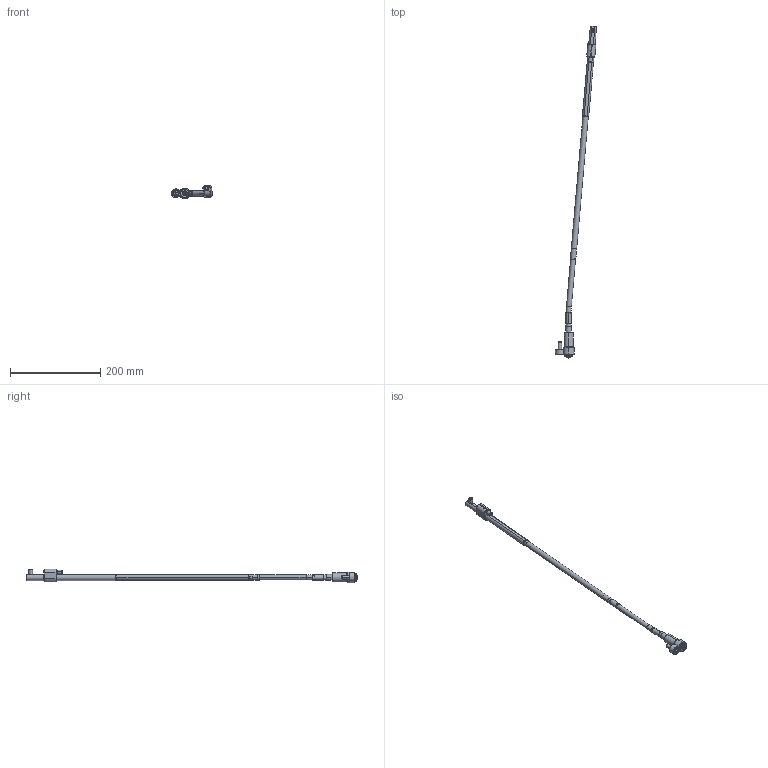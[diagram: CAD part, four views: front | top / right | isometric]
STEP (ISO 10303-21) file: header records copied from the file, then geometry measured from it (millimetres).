
FILE_DESCRIPTION (( 'STEP AP214' ), '1' );
FILE_NAME ('WL120100-EJE 5°.STEP', '2021-03-19T15:34:29', ( '' ), ( '' ), 'SwSTEP 2.0', 'SolidWorks 2019', '' );
FILE_SCHEMA (( 'AUTOMOTIVE_DESIGN' ));
Length unit declared in the file: millimetre
Products named in the file (17): Web-WL12-A2; Web-WL12-XX_ON-WL120100-5; Web-WL12-A3; Web-WL12-F00.SLDPRT; 9DR2808-TOR; 1DIN912645_DIN 912 M6 x 45 --- 45C; WL120100-B; WL120100-B1; WL120100-EJE 5°; WL120100-E; WL120100-D; Web-WL12-A8; 8WL12EJEP; 3IMAN5X3-150_con sellador; 1DIN912820_DIN 912 M8 x 20 --- 20C; Web-WL12-A1; Web-WL12-F01
Assembly tree (16 placements, depth 3):
  WL120100-EJE 5°
    Web-WL12-A8
    Web-WL12-XX_ON-WL120100-5
    Web-WL12-A3
    Web-WL12-A2
    Web-WL12-A1
    Web-WL12-F00.SLDPRT
      Web-WL12-F01
      1DIN912820_DIN 912 M8 x 20 --- 20C
      1DIN912645_DIN 912 M6 x 45 --- 45C
    WL120100-D
    8WL12EJEP
    WL120100-E
    9DR2808-TOR
    WL120100-B
      WL120100-B1
      3IMAN5X3-150_con sellador
Bounding box: 91.21 x 736.19 x 29.9 mm (x, y, z)
Volume: 113341.6 mm3; surface area: 49842.3 mm2
Topology: 15 solids, 15 shells, 432 faces, 906 edges, 525 vertices
Faces by surface type: plane 139, cylinder 123, cone 120, torus 50
Entity records: 13661 total; most frequent: DIRECTION 2240, CARTESIAN_POINT 2104, ORIENTED_EDGE 1788, AXIS2_PLACEMENT_3D 929, EDGE_CURVE 894, VERTEX_POINT 525, EDGE_LOOP 477, CIRCLE 476
